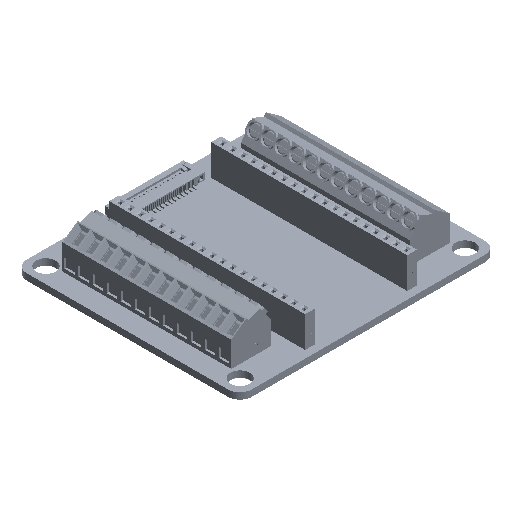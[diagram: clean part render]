
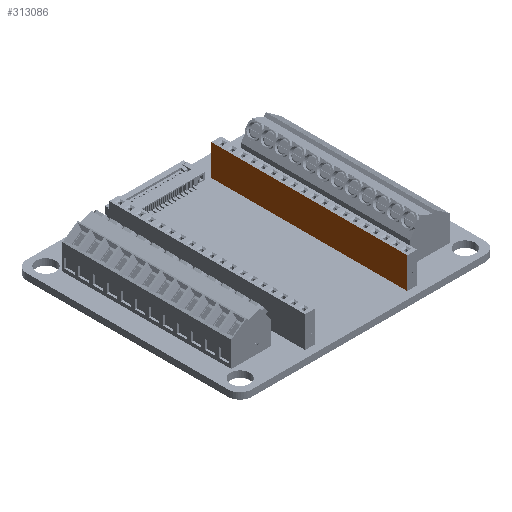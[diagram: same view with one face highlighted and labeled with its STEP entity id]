
A CAD part, isometric view. The second image highlights one B-rep face of the part: STEP entity #313086.
In plain terms, the highlighted planar face has unit normal (-1, 0, 0) as drawn and (0, 1, 0) by its records, which use the part's own axes.
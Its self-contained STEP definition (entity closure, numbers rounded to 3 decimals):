
#306602 = VERTEX_POINT('',#306603);
#306603 = CARTESIAN_POINT('',(-24.38,1.215,
    -0.8));
#306652 = VERTEX_POINT('',#306653);
#306653 = CARTESIAN_POINT('',(-24.38,1.215,
    7.7));
#306659 = EDGE_CURVE('',#306652,#306602,#306660,.T.);
#306660 = LINE('',#306661,#306662);
#306661 = CARTESIAN_POINT('',(-24.38,1.215,
    7.7));
#306662 = VECTOR('',#306663,1.);
#306663 = DIRECTION('',(-0.,-0.,-1.));
#312816 = VERTEX_POINT('',#312817);
#312817 = CARTESIAN_POINT('',(24.38,1.215,
    7.7));
#312823 = EDGE_CURVE('',#312816,#306652,#312824,.T.);
#312824 = LINE('',#312825,#312826);
#312825 = CARTESIAN_POINT('',(-24.38,1.215,
    7.7));
#312826 = VECTOR('',#312827,1.);
#312827 = DIRECTION('',(-1.,-0.,-0.));
#313023 = EDGE_CURVE('',#313024,#306602,#313026,.T.);
#313024 = VERTEX_POINT('',#313025);
#313025 = CARTESIAN_POINT('',(24.38,1.215,
    -0.8));
#313026 = LINE('',#313027,#313028);
#313027 = CARTESIAN_POINT('',(-24.38,1.215,
    -0.8));
#313028 = VECTOR('',#313029,1.);
#313029 = DIRECTION('',(-1.,-0.,-0.));
#313053 = EDGE_CURVE('',#312816,#313024,#313054,.T.);
#313054 = LINE('',#313055,#313056);
#313055 = CARTESIAN_POINT('',(24.38,1.215,
    7.7));
#313056 = VECTOR('',#313057,1.);
#313057 = DIRECTION('',(-0.,-0.,-1.));
#313086 = ADVANCED_FACE('',(#313087),#313093,.F.);
#313087 = FACE_BOUND('',#313088,.T.);
#313088 = EDGE_LOOP('',(#313089,#313090,#313091,#313092));
#313089 = ORIENTED_EDGE('',*,*,#313023,.T.);
#313090 = ORIENTED_EDGE('',*,*,#306659,.F.);
#313091 = ORIENTED_EDGE('',*,*,#312823,.F.);
#313092 = ORIENTED_EDGE('',*,*,#313053,.T.);
#313093 = PLANE('',#313094);
#313094 = AXIS2_PLACEMENT_3D('',#313095,#313096,#313097);
#313095 = CARTESIAN_POINT('',(-24.38,1.215,
    7.7));
#313096 = DIRECTION('',(0.,-1.,0.));
#313097 = DIRECTION('',(0.,0.,-1.));
